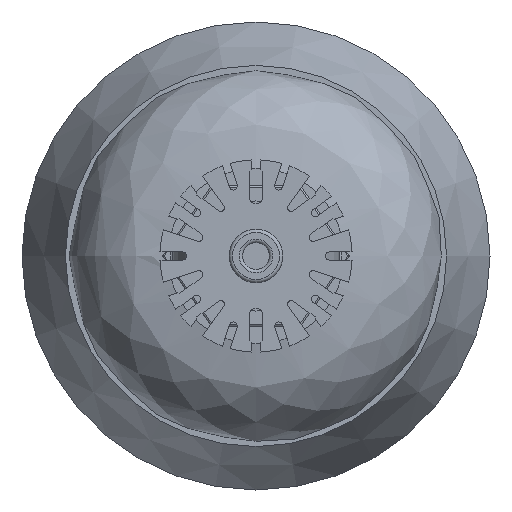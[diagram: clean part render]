
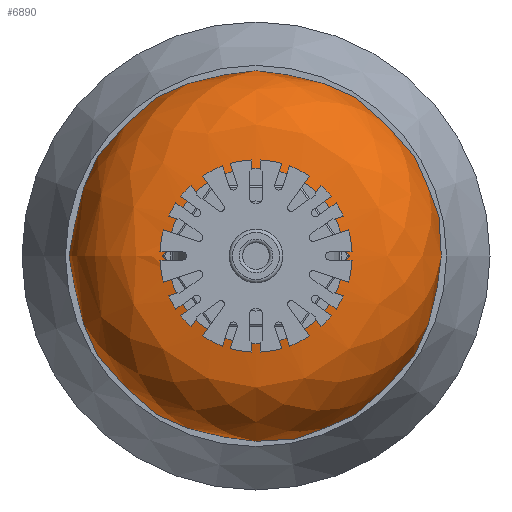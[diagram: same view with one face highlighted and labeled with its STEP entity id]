
A CAD part, front view. The second image highlights one B-rep face of the part: STEP entity #6890.
In plain terms, the highlighted free-form (B-spline) face has degree [2, 2] with [5, 9] control points.
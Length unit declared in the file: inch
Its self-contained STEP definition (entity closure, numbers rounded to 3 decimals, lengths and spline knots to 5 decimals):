
#290=(
BOUNDED_SURFACE()
B_SPLINE_SURFACE(2,2,((#10194,#10195,#10196,#10197,#10198,#10199,#10200,
#10201,#10202),(#10203,#10204,#10205,#10206,#10207,#10208,#10209,#10210,
#10211),(#10212,#10213,#10214,#10215,#10216,#10217,#10218,#10219,#10220),
(#10221,#10222,#10223,#10224,#10225,#10226,#10227,#10228,#10229),(#10230,
#10231,#10232,#10233,#10234,#10235,#10236,#10237,#10238)),.UNSPECIFIED.,
 .F.,.T.,.F.)
B_SPLINE_SURFACE_WITH_KNOTS((3,2,3),(3,2,2,2,3),(-0.26503,0.67035,
1.60572),(-3.14159,-1.5708,0.,1.5708,
3.14159),.UNSPECIFIED.)
GEOMETRIC_REPRESENTATION_ITEM()
RATIONAL_B_SPLINE_SURFACE(((1.,0.707,1.,0.707,1.,
0.707,1.,0.707,1.),(0.893,0.631,
0.893,0.631,0.893,0.631,
0.893,0.631,0.893),(1.,0.707,
1.,0.707,1.,0.707,1.,0.707,1.),(0.893,
0.631,0.893,0.631,0.893,
0.631,0.893,0.631,0.893),
(1.,0.707,1.,0.707,1.,0.707,1.,0.707,
1.)))
REPRESENTATION_ITEM('')
SURFACE()
);
#1364=FACE_OUTER_BOUND('',#1760,.T.);
#1760=EDGE_LOOP('',(#4325,#4326,#4327,#4328,#4329,#4330));
#2186=CIRCLE('',#7389,1.375);
#2187=CIRCLE('',#7390,1.375);
#2188=CIRCLE('',#7391,0.6575);
#2189=CIRCLE('',#7392,0.6575);
#2190=CIRCLE('',#7393,0.7175);
#2615=VERTEX_POINT('',#10189);
#2616=VERTEX_POINT('',#10190);
#2617=VERTEX_POINT('',#10239);
#2618=VERTEX_POINT('',#10240);
#3277=EDGE_CURVE('',#2615,#2616,#2186,.T.);
#3278=EDGE_CURVE('',#2616,#2615,#2187,.T.);
#3280=EDGE_CURVE('',#2617,#2618,#2188,.T.);
#3281=EDGE_CURVE('',#2618,#2617,#2189,.T.);
#3282=EDGE_CURVE('',#2618,#2616,#2190,.T.);
#4325=ORIENTED_EDGE('',*,*,#3280,.F.);
#4326=ORIENTED_EDGE('',*,*,#3281,.F.);
#4327=ORIENTED_EDGE('',*,*,#3282,.T.);
#4328=ORIENTED_EDGE('',*,*,#3278,.T.);
#4329=ORIENTED_EDGE('',*,*,#3277,.T.);
#4330=ORIENTED_EDGE('',*,*,#3282,.F.);
#6890=ADVANCED_FACE('',(#1364),#290,.F.);
#7389=AXIS2_PLACEMENT_3D('',#10191,#8194,#8195);
#7390=AXIS2_PLACEMENT_3D('',#10192,#8196,#8197);
#7391=AXIS2_PLACEMENT_3D('',#10241,#8199,#8200);
#7392=AXIS2_PLACEMENT_3D('',#10242,#8201,#8202);
#7393=AXIS2_PLACEMENT_3D('',#10243,#8203,#8204);
#8194=DIRECTION('center_axis',(0.,-1.,0.));
#8195=DIRECTION('ref_axis',(1.,0.,0.));
#8196=DIRECTION('center_axis',(0.,-1.,0.));
#8197=DIRECTION('ref_axis',(1.,0.,0.));
#8199=DIRECTION('center_axis',(0.,-1.,0.));
#8200=DIRECTION('ref_axis',(1.,0.,0.));
#8201=DIRECTION('center_axis',(0.,-1.,0.));
#8202=DIRECTION('ref_axis',(1.,0.,0.));
#8203=DIRECTION('center_axis',(0.,0.,
1.));
#8204=DIRECTION('ref_axis',(1.,0.,0.));
#10189=CARTESIAN_POINT('',(-1.375,2.405,0.));
#10190=CARTESIAN_POINT('',(1.375,2.405,0.));
#10191=CARTESIAN_POINT('Origin',(0.,2.405,0.));
#10192=CARTESIAN_POINT('Origin',(0.,2.405,0.));
#10194=CARTESIAN_POINT('Ctrl Pts',(1.375,2.405,0.));
#10195=CARTESIAN_POINT('Ctrl Pts',(1.375,2.405,1.375));
#10196=CARTESIAN_POINT('Ctrl Pts',(0.,2.405,1.375));
#10197=CARTESIAN_POINT('Ctrl Pts',(-1.375,2.405,1.375));
#10198=CARTESIAN_POINT('Ctrl Pts',(-1.375,2.405,0.));
#10199=CARTESIAN_POINT('Ctrl Pts',(-1.375,2.405,-1.375));
#10200=CARTESIAN_POINT('Ctrl Pts',(0.,2.405,-1.375));
#10201=CARTESIAN_POINT('Ctrl Pts',(1.375,2.405,-1.375));
#10202=CARTESIAN_POINT('Ctrl Pts',(1.375,2.405,0.));
#10203=CARTESIAN_POINT('Ctrl Pts',(1.46992,2.05527,0.));
#10204=CARTESIAN_POINT('Ctrl Pts',(1.46992,2.05527,1.46992));
#10205=CARTESIAN_POINT('Ctrl Pts',(0.,2.05527,1.46992));
#10206=CARTESIAN_POINT('Ctrl Pts',(-1.46992,2.05527,1.46992));
#10207=CARTESIAN_POINT('Ctrl Pts',(-1.46992,2.05527,0.));
#10208=CARTESIAN_POINT('Ctrl Pts',(-1.46992,2.05527,-1.46992));
#10209=CARTESIAN_POINT('Ctrl Pts',(0.,2.05527,-1.46992));
#10210=CARTESIAN_POINT('Ctrl Pts',(1.46992,2.05527,-1.46992));
#10211=CARTESIAN_POINT('Ctrl Pts',(1.46992,2.05527,0.));
#10212=CARTESIAN_POINT('Ctrl Pts',(1.24479,1.77131,0.));
#10213=CARTESIAN_POINT('Ctrl Pts',(1.24479,1.77131,1.24479));
#10214=CARTESIAN_POINT('Ctrl Pts',(0.,1.77131,
1.24479));
#10215=CARTESIAN_POINT('Ctrl Pts',(-1.24479,1.77131,1.24479));
#10216=CARTESIAN_POINT('Ctrl Pts',(-1.24479,1.77131,0.));
#10217=CARTESIAN_POINT('Ctrl Pts',(-1.24479,1.77131,-1.24479));
#10218=CARTESIAN_POINT('Ctrl Pts',(0.,1.77131,
-1.24479));
#10219=CARTESIAN_POINT('Ctrl Pts',(1.24479,1.77131,-1.24479));
#10220=CARTESIAN_POINT('Ctrl Pts',(1.24479,1.77131,0.));
#10221=CARTESIAN_POINT('Ctrl Pts',(1.01966,1.48735,0.));
#10222=CARTESIAN_POINT('Ctrl Pts',(1.01966,1.48735,1.01966));
#10223=CARTESIAN_POINT('Ctrl Pts',(0.,1.48735,
1.01966));
#10224=CARTESIAN_POINT('Ctrl Pts',(-1.01966,1.48735,1.01966));
#10225=CARTESIAN_POINT('Ctrl Pts',(-1.01966,1.48735,0.));
#10226=CARTESIAN_POINT('Ctrl Pts',(-1.01966,1.48735,-1.01966));
#10227=CARTESIAN_POINT('Ctrl Pts',(0.,1.48735,
-1.01966));
#10228=CARTESIAN_POINT('Ctrl Pts',(1.01966,1.48735,-1.01966));
#10229=CARTESIAN_POINT('Ctrl Pts',(1.01966,1.48735,0.));
#10230=CARTESIAN_POINT('Ctrl Pts',(0.6575,1.5,0.));
#10231=CARTESIAN_POINT('Ctrl Pts',(0.6575,1.5,0.6575));
#10232=CARTESIAN_POINT('Ctrl Pts',(0.,1.5,0.6575));
#10233=CARTESIAN_POINT('Ctrl Pts',(-0.6575,1.5,0.6575));
#10234=CARTESIAN_POINT('Ctrl Pts',(-0.6575,1.5,0.));
#10235=CARTESIAN_POINT('Ctrl Pts',(-0.6575,1.5,-0.6575));
#10236=CARTESIAN_POINT('Ctrl Pts',(0.,1.5,-0.6575));
#10237=CARTESIAN_POINT('Ctrl Pts',(0.6575,1.5,-0.6575));
#10238=CARTESIAN_POINT('Ctrl Pts',(0.6575,1.5,0.));
#10239=CARTESIAN_POINT('',(-0.6575,1.5,0.));
#10240=CARTESIAN_POINT('',(0.6575,1.5,0.));
#10241=CARTESIAN_POINT('Origin',(0.,1.5,0.));
#10242=CARTESIAN_POINT('Origin',(0.,1.5,0.));
#10243=CARTESIAN_POINT('Origin',(0.68255,2.21706,0.));
